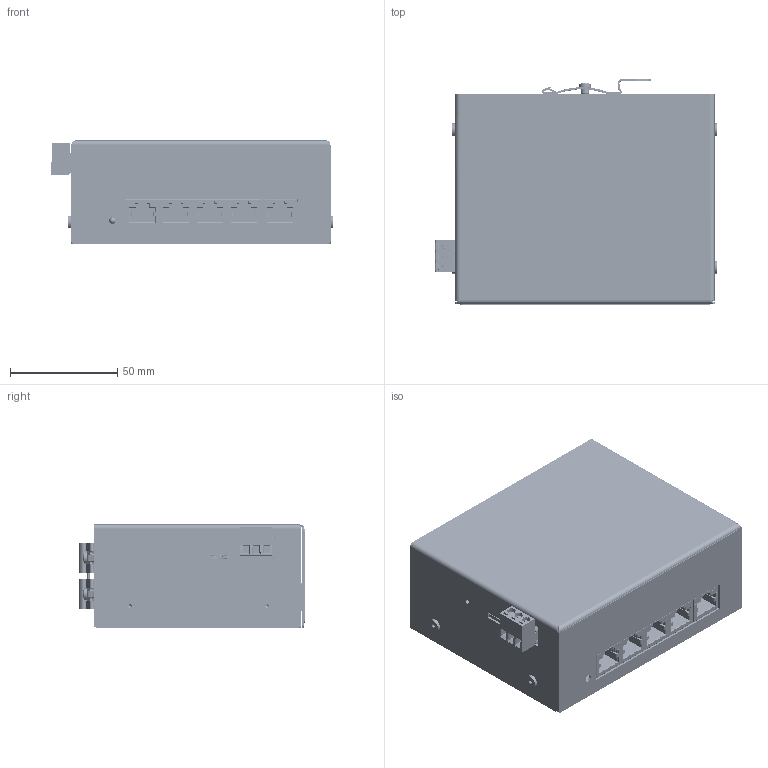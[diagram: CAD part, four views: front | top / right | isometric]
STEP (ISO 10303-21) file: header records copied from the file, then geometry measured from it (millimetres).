
FILE_DESCRIPTION(/* description */ (''),/* implementation_level */ '2;1');
FILE_NAME(/* name */ 'PPH600-30A_20260706.stp',/* time_stamp */ '2026-07-06T14:49:21+02:00',/* author */ ('ut3'),/* organization */ (''),/* preprocessor_version */ 'ST-DEVELOPER v20.1',/* originating_system */ 'Autodesk Inventor 2026',/* authorisation */ '');
FILE_SCHEMA (('AUTOMOTIVE_DESIGN { 1 0 10303 214 3 1 1 }'));
Products named in the file (335): PPH_5_V3; 0; 0_1; 0_2; 0_3; 0_4; 0_5; 0_6; 0_7; 0_8; 0_9; 0_10; 0_11; 0_12; ASSEMBLY; Fillet1; Fillet2; body2; 482040001; DCK0005A_ASM; BODY-SOT; LEAD-SOT; PIN1-ID; 0_13; 0_14; 0_15; DCK0005A_ASM_1; BODY-SOT_1; LEAD-SOT_1; PIN1-ID_1; 0_16; 0_17; 0_18; 0_19; 1210AC103KAT1A; 0_20; 0_21; 0_22; 0_23; 0_24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
Assembly tree (663 placements, depth 5):
  PPH_5_V3
    0
      0_1
        0_2
        0_3
        0_4
        0_5
        0_6
        0_7
        0_8
      0_9
      0_10
      0_11
      ASSEMBLY_29  x94
        Fillet1_10
        Fillet2_10
        body2_10
      0_12
      ASSEMBLY_30  x6
        Fillet1_11
        Fillet2_11
        body2_11
      ASSEMBLY  x2
        Fillet1
        Fillet2
        body2
      ASSEMBLY_15  x4
        Fillet1_7
        Fillet2_7
        body2_7
      482040001
      1210AC103KAT1A  x4
      ASSEMBLY_14  x19
        Fillet1_6
        Fillet2_6
        body2_6
      ASSEMBLY_27  x8
        Fillet1_8
        Fillet2_8
        body2_8
      DCK0005A_ASM_1  x2
        BODY-SOT_1
        LEAD-SOT_1
        PIN1-ID_1
      DCK0005A_ASM
        BODY-SOT
        LEAD-SOT  x5
        PIN1-ID
      0_13
      0_14
      0_15
      0_16
      0_17
      0_18
      0_19
      ASSEMBLY_28  x5
        Fillet1_9
        Fillet2_9
        body2_9
      0_20
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Bounding box: 131.78 x 105.18 x 48 mm (x, y, z)
Volume: 90179.8 mm3; surface area: 278732.7 mm2
Topology: 1556 solids, 24216 shells, 47333 faces, 167068 edges, 144211 vertices
Faces by surface type: cylinder 25976, plane 19199, sphere 1506, bspline 315, cone 223, torus 114
Full cylindrical faces by diameter (mm): 0.15 x2, 0.156 x1, 0.4 x4, 0.45 x40, 0.5 x2, 0.585 x2, 0.6 x6, 0.625 x2, 0.64 x4, 0.7 x2, 0.8 x1, 1.016 x4, 1.25 x2, 1.5 x4, 1.6 x3, 1.8 x2, 2 x8, 2.3 x1, 2.459 x4, 2.5 x9, 3 x5, 3.2 x2, 3.25 x2, 3.3 x1, 3.4 x4, 3.5 x1, 3.6 x2, 3.621 x2, 3.7 x3, 3.85 x3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
Entity records: 1587867 total; most frequent: CARTESIAN_POINT 355692, DIRECTION 266944, ORIENTED_EDGE 165054, EDGE_CURVE 136350, VERTEX_POINT 126269, AXIS2_PLACEMENT_3D 96381, LINE 74182, VECTOR 74182
